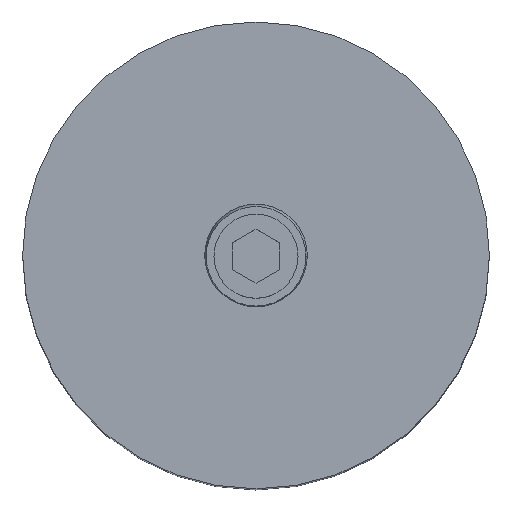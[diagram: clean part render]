
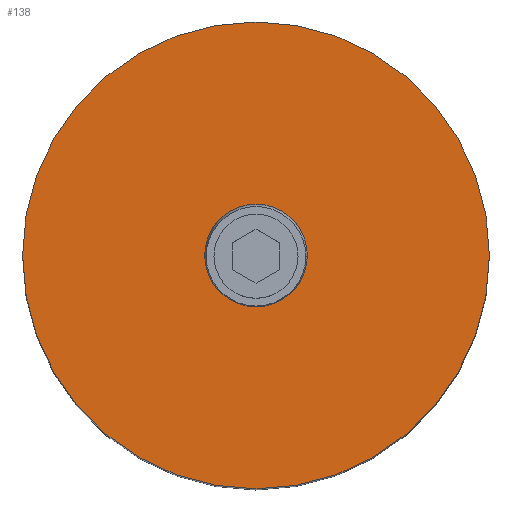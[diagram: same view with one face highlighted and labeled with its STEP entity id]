
A CAD part, top view. The second image highlights one B-rep face of the part: STEP entity #138.
In plain terms, the highlighted planar face has unit normal (0, 0, 1).
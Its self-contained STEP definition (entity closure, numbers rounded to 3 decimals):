
#107=PLANE('',#636);
#122=FACE_BOUND('',#215,.T.);
#123=FACE_BOUND('',#216,.T.);
#138=ADVANCED_FACE('',(#122,#123),#107,.T.);
#215=EDGE_LOOP('',(#297,#298));
#216=EDGE_LOOP('',(#299,#300));
#255=CIRCLE('',#628,50.);
#258=CIRCLE('',#632,50.);
#259=CIRCLE('',#634,11.);
#260=CIRCLE('',#635,11.);
#297=ORIENTED_EDGE('',*,*,#484,.T.);
#298=ORIENTED_EDGE('',*,*,#480,.T.);
#299=ORIENTED_EDGE('',*,*,#485,.F.);
#300=ORIENTED_EDGE('',*,*,#486,.F.);
#434=VERTEX_POINT('',#878);
#435=VERTEX_POINT('',#880);
#437=VERTEX_POINT('',#889);
#438=VERTEX_POINT('',#890);
#480=EDGE_CURVE('',#435,#434,#255,.T.);
#484=EDGE_CURVE('',#434,#435,#258,.T.);
#485=EDGE_CURVE('',#437,#438,#259,.T.);
#486=EDGE_CURVE('',#438,#437,#260,.T.);
#628=AXIS2_PLACEMENT_3D('',#879,#700,#701);
#632=AXIS2_PLACEMENT_3D('',#886,#709,#710);
#634=AXIS2_PLACEMENT_3D('',#888,#713,#714);
#635=AXIS2_PLACEMENT_3D('',#891,#715,#716);
#636=AXIS2_PLACEMENT_3D('',#892,#717,#718);
#700=DIRECTION('',(0.,0.,1.));
#701=DIRECTION('',(0.,1.,0.));
#709=DIRECTION('',(0.,0.,1.));
#710=DIRECTION('',(0.,-1.,0.));
#713=DIRECTION('',(0.,0.,1.));
#714=DIRECTION('',(0.,1.,0.));
#715=DIRECTION('',(0.,0.,1.));
#716=DIRECTION('',(0.,-1.,0.));
#717=DIRECTION('',(0.,0.,1.));
#718=DIRECTION('',(0.,-1.,0.));
#878=CARTESIAN_POINT('',(50.,0.,140.));
#879=CARTESIAN_POINT('',(0.,0.,140.));
#880=CARTESIAN_POINT('',(-50.,0.,140.));
#886=CARTESIAN_POINT('',(0.,0.,140.));
#888=CARTESIAN_POINT('',(0.,0.,140.));
#889=CARTESIAN_POINT('',(-11.,0.,140.));
#890=CARTESIAN_POINT('',(11.,0.,140.));
#891=CARTESIAN_POINT('',(0.,0.,140.));
#892=CARTESIAN_POINT('',(0.,0.,140.));
